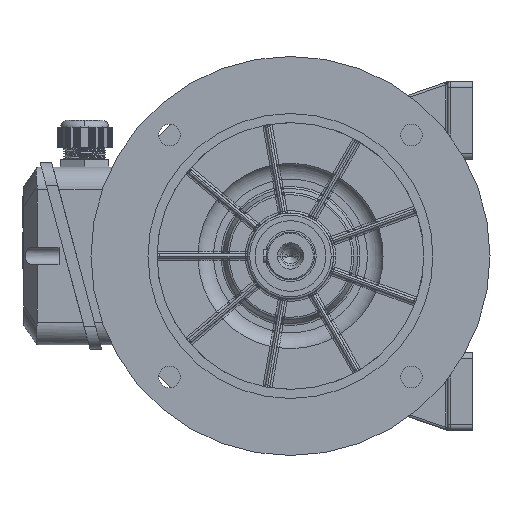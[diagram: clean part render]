
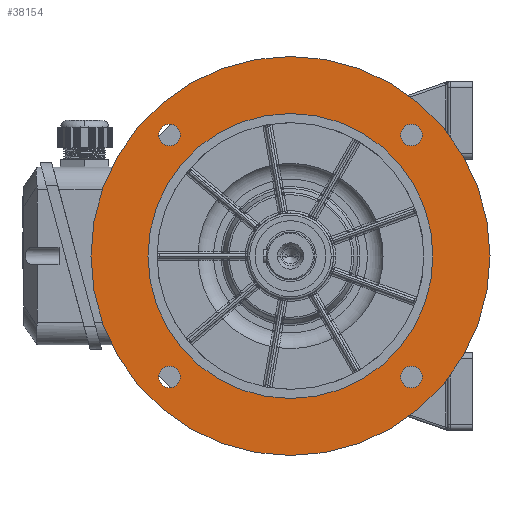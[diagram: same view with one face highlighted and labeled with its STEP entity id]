
A CAD part, left-side view. The second image highlights one B-rep face of the part: STEP entity #38154.
In plain terms, the highlighted planar face has unit normal (-1, 0, 0).
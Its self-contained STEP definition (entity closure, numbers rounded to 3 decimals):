
#221 = VERTEX_POINT ( 'NONE', #36829 ) ;
#1579 = EDGE_CURVE ( 'NONE', #49948, #23442, #17996, .T. ) ;
#1629 = ORIENTED_EDGE ( 'NONE', *, *, #64214, .F. ) ;
#1723 = DIRECTION ( 'NONE',  ( 1., 0., 0. ) ) ;
#1796 = AXIS2_PLACEMENT_3D ( 'NONE', #71740, #72258, #28683 ) ;
#4126 = EDGE_CURVE ( 'NONE', #80803, #221, #24600, .T. ) ;
#4574 = CARTESIAN_POINT ( 'NONE',  ( 110., 115.566, -106.066 ) ) ;
#5988 = CARTESIAN_POINT ( 'NONE',  ( 110., 96.566, -106.066 ) ) ;
#7185 = AXIS2_PLACEMENT_3D ( 'NONE', #8585, #39285, #7504 ) ;
#7234 = ORIENTED_EDGE ( 'NONE', *, *, #75429, .F. ) ;
#7504 = DIRECTION ( 'NONE',  ( 0., 1., 0. ) ) ;
#8252 = CARTESIAN_POINT ( 'NONE',  ( 110., 0., 0. ) ) ;
#8375 = DIRECTION ( 'NONE',  ( 0., -1., 0. ) ) ;
#8585 = CARTESIAN_POINT ( 'NONE',  ( 110., 0., 0. ) ) ;
#8863 = VERTEX_POINT ( 'NONE', #53709 ) ;
#9115 = CIRCLE ( 'NONE', #56723, 9.5 ) ;
#11343 = CIRCLE ( 'NONE', #52564, 9.5 ) ;
#11594 = EDGE_CURVE ( 'NONE', #15660, #8863, #9115, .T. ) ;
#11607 = AXIS2_PLACEMENT_3D ( 'NONE', #20141, #63674, #69955 ) ;
#14412 = FACE_BOUND ( 'NONE', #42126, .T. ) ;
#14762 = EDGE_CURVE ( 'NONE', #23442, #49948, #42836, .T. ) ;
#15358 = DIRECTION ( 'NONE',  ( 0., 1., 0. ) ) ;
#15613 = CARTESIAN_POINT ( 'NONE',  ( 110., 106.066, -106.066 ) ) ;
#15650 = CIRCLE ( 'NONE', #7185, 175. ) ;
#15660 = VERTEX_POINT ( 'NONE', #80719 ) ;
#15885 = DIRECTION ( 'NONE',  ( 0., -1., 0. ) ) ;
#15896 = ORIENTED_EDGE ( 'NONE', *, *, #78827, .F. ) ;
#16354 = FACE_BOUND ( 'NONE', #58734, .T. ) ;
#16841 = VERTEX_POINT ( 'NONE', #43793 ) ;
#17896 = CIRCLE ( 'NONE', #77723, 125. ) ;
#17996 = CIRCLE ( 'NONE', #60696, 9.5 ) ;
#18758 = DIRECTION ( 'NONE',  ( -1., 0., 0. ) ) ;
#18827 = ORIENTED_EDGE ( 'NONE', *, *, #46482, .F. ) ;
#19501 = ORIENTED_EDGE ( 'NONE', *, *, #67314, .F. ) ;
#19645 = AXIS2_PLACEMENT_3D ( 'NONE', #75851, #31978, #8375 ) ;
#20141 = CARTESIAN_POINT ( 'NONE',  ( 110., 106.066, -106.066 ) ) ;
#20307 = ORIENTED_EDGE ( 'NONE', *, *, #26894, .T. ) ;
#22010 = CARTESIAN_POINT ( 'NONE',  ( 110., 106.066, 106.066 ) ) ;
#22231 = AXIS2_PLACEMENT_3D ( 'NONE', #22010, #72371, #60095 ) ;
#22277 = CARTESIAN_POINT ( 'NONE',  ( 110., 125., 0. ) ) ;
#22715 = AXIS2_PLACEMENT_3D ( 'NONE', #36563, #67889, #74416 ) ;
#23442 = VERTEX_POINT ( 'NONE', #5988 ) ;
#23597 = EDGE_LOOP ( 'NONE', ( #53364, #73446 ) ) ;
#24600 = CIRCLE ( 'NONE', #35779, 125. ) ;
#24993 = DIRECTION ( 'NONE',  ( 0., 1., 0. ) ) ;
#26017 = FACE_BOUND ( 'NONE', #23597, .T. ) ;
#26193 = ORIENTED_EDGE ( 'NONE', *, *, #4126, .T. ) ;
#26894 = EDGE_CURVE ( 'NONE', #221, #80803, #17896, .T. ) ;
#28683 = DIRECTION ( 'NONE',  ( 0., -1., 0. ) ) ;
#30128 = VERTEX_POINT ( 'NONE', #47113 ) ;
#30985 = CARTESIAN_POINT ( 'NONE',  ( 110., 175., 0. ) ) ;
#31978 = DIRECTION ( 'NONE',  ( -1., 0., 0. ) ) ;
#32019 = AXIS2_PLACEMENT_3D ( 'NONE', #59119, #52075, #15358 ) ;
#34791 = FACE_OUTER_BOUND ( 'NONE', #54923, .T. ) ;
#35402 = CIRCLE ( 'NONE', #32019, 175. ) ;
#35779 = AXIS2_PLACEMENT_3D ( 'NONE', #8252, #1723, #45219 ) ;
#36504 = VERTEX_POINT ( 'NONE', #54552 ) ;
#36563 = CARTESIAN_POINT ( 'NONE',  ( 110., -106.066, -106.066 ) ) ;
#36765 = VERTEX_POINT ( 'NONE', #39255 ) ;
#36829 = CARTESIAN_POINT ( 'NONE',  ( 110., -125., 0. ) ) ;
#37837 = DIRECTION ( 'NONE',  ( -1., 0., 0. ) ) ;
#38154 = ADVANCED_FACE ( 'NONE', ( #34791, #69880, #64000, #26017, #16354, #14412 ), #55512, .T. ) ;
#39255 = CARTESIAN_POINT ( 'NONE',  ( 110., -115.566, 106.066 ) ) ;
#39285 = DIRECTION ( 'NONE',  ( 1., 0., 0. ) ) ;
#40152 = AXIS2_PLACEMENT_3D ( 'NONE', #30985, #18758, #24993 ) ;
#41047 = DIRECTION ( 'NONE',  ( -1., 0., 0. ) ) ;
#41807 = EDGE_LOOP ( 'NONE', ( #7234, #19501 ) ) ;
#42126 = EDGE_LOOP ( 'NONE', ( #26193, #20307 ) ) ;
#42606 = CARTESIAN_POINT ( 'NONE',  ( 110., -96.566, 106.066 ) ) ;
#42836 = CIRCLE ( 'NONE', #11607, 9.5 ) ;
#42874 = DIRECTION ( 'NONE',  ( 1., 0., 0. ) ) ;
#43793 = CARTESIAN_POINT ( 'NONE',  ( 110., -175., 0. ) ) ;
#44635 = CARTESIAN_POINT ( 'NONE',  ( 110., 106.066, 106.066 ) ) ;
#45072 = VERTEX_POINT ( 'NONE', #42606 ) ;
#45219 = DIRECTION ( 'NONE',  ( 0., 1., 0. ) ) ;
#45413 = CIRCLE ( 'NONE', #22231, 9.5 ) ;
#46482 = EDGE_CURVE ( 'NONE', #36765, #45072, #11343, .T. ) ;
#47113 = CARTESIAN_POINT ( 'NONE',  ( 110., -115.566, -106.066 ) ) ;
#49948 = VERTEX_POINT ( 'NONE', #4574 ) ;
#52075 = DIRECTION ( 'NONE',  ( 1., 0., 0. ) ) ;
#52564 = AXIS2_PLACEMENT_3D ( 'NONE', #78366, #41047, #53550 ) ;
#53364 = ORIENTED_EDGE ( 'NONE', *, *, #11594, .F. ) ;
#53550 = DIRECTION ( 'NONE',  ( 0., -1., 0. ) ) ;
#53709 = CARTESIAN_POINT ( 'NONE',  ( 110., 115.566, 106.066 ) ) ;
#54552 = CARTESIAN_POINT ( 'NONE',  ( 110., 175., 0. ) ) ;
#54649 = CIRCLE ( 'NONE', #22715, 9.5 ) ;
#54923 = EDGE_LOOP ( 'NONE', ( #57535, #1629 ) ) ;
#55512 = PLANE ( 'NONE',  #40152 ) ;
#56723 = AXIS2_PLACEMENT_3D ( 'NONE', #44635, #37837, #63113 ) ;
#56784 = EDGE_CURVE ( 'NONE', #8863, #15660, #45413, .T. ) ;
#57535 = ORIENTED_EDGE ( 'NONE', *, *, #68260, .F. ) ;
#58734 = EDGE_LOOP ( 'NONE', ( #73346, #79904 ) ) ;
#59110 = DIRECTION ( 'NONE',  ( -1., 0., 0. ) ) ;
#59119 = CARTESIAN_POINT ( 'NONE',  ( 110., 0., 0. ) ) ;
#60095 = DIRECTION ( 'NONE',  ( 0., -1., 0. ) ) ;
#60696 = AXIS2_PLACEMENT_3D ( 'NONE', #15613, #59110, #15885 ) ;
#63113 = DIRECTION ( 'NONE',  ( 0., -1., 0. ) ) ;
#63674 = DIRECTION ( 'NONE',  ( -1., 0., 0. ) ) ;
#64000 = FACE_BOUND ( 'NONE', #71104, .T. ) ;
#64214 = EDGE_CURVE ( 'NONE', #16841, #36504, #35402, .T. ) ;
#65949 = VERTEX_POINT ( 'NONE', #69239 ) ;
#67314 = EDGE_CURVE ( 'NONE', #65949, #30128, #54649, .T. ) ;
#67889 = DIRECTION ( 'NONE',  ( -1., 0., 0. ) ) ;
#68260 = EDGE_CURVE ( 'NONE', #36504, #16841, #15650, .T. ) ;
#68996 = DIRECTION ( 'NONE',  ( 0., 1., 0. ) ) ;
#69239 = CARTESIAN_POINT ( 'NONE',  ( 110., -96.566, -106.066 ) ) ;
#69880 = FACE_BOUND ( 'NONE', #41807, .T. ) ;
#69955 = DIRECTION ( 'NONE',  ( 0., -1., 0. ) ) ;
#71104 = EDGE_LOOP ( 'NONE', ( #18827, #15896 ) ) ;
#71740 = CARTESIAN_POINT ( 'NONE',  ( 110., -106.066, -106.066 ) ) ;
#72258 = DIRECTION ( 'NONE',  ( -1., 0., 0. ) ) ;
#72371 = DIRECTION ( 'NONE',  ( -1., 0., 0. ) ) ;
#73153 = CIRCLE ( 'NONE', #19645, 9.5 ) ;
#73346 = ORIENTED_EDGE ( 'NONE', *, *, #14762, .F. ) ;
#73446 = ORIENTED_EDGE ( 'NONE', *, *, #56784, .F. ) ;
#73461 = CIRCLE ( 'NONE', #1796, 9.5 ) ;
#74416 = DIRECTION ( 'NONE',  ( 0., -1., 0. ) ) ;
#75429 = EDGE_CURVE ( 'NONE', #30128, #65949, #73461, .T. ) ;
#75851 = CARTESIAN_POINT ( 'NONE',  ( 110., -106.066, 106.066 ) ) ;
#77723 = AXIS2_PLACEMENT_3D ( 'NONE', #80193, #42874, #68996 ) ;
#78366 = CARTESIAN_POINT ( 'NONE',  ( 110., -106.066, 106.066 ) ) ;
#78827 = EDGE_CURVE ( 'NONE', #45072, #36765, #73153, .T. ) ;
#79904 = ORIENTED_EDGE ( 'NONE', *, *, #1579, .F. ) ;
#80193 = CARTESIAN_POINT ( 'NONE',  ( 110., 0., 0. ) ) ;
#80719 = CARTESIAN_POINT ( 'NONE',  ( 110., 96.566, 106.066 ) ) ;
#80803 = VERTEX_POINT ( 'NONE', #22277 ) ;
